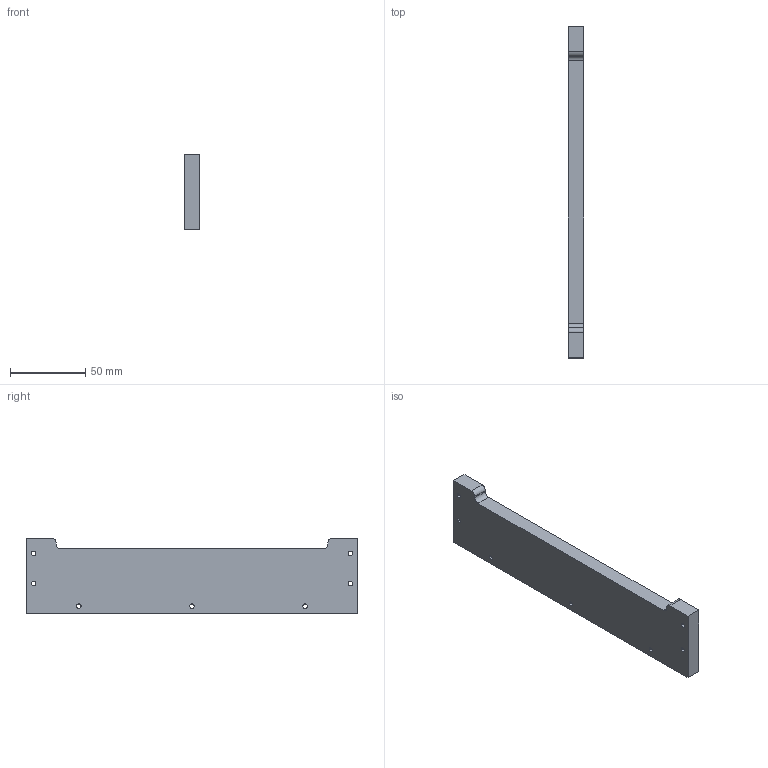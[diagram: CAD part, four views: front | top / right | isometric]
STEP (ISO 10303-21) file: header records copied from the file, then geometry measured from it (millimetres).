
FILE_DESCRIPTION(('CATIA V5 STEP Exchange'),'2;1');
FILE_NAME('E:\CNC\CNC_REV3_PLAN_FINAL\FICHIERS POUR USINAGE DES PIECES PORTIQUE\PIECES_AVEC_TROU\AxeZ_Bottom.stp','2016-09-06T20:13:02+00:00',('none'),('none'),'CATIA Version 5 Release 19 SP 2 (IN-10)','CATIA V5 STEP AP203','none');
FILE_SCHEMA(('CONFIG_CONTROL_DESIGN'));
Length unit declared in the file: millimetre
Products named in the file (1): AxeZ_Bas
Bounding box: 10 x 220 x 50 mm (x, y, z)
Volume: 96905.2 mm3; surface area: 25529.3 mm2
Topology: 1 solids, 1 shells, 28 faces, 78 edges, 52 vertices
Faces by surface type: cylinder 18, plane 10
Entity records: 912 total; most frequent: ORIENTED_EDGE 156, CARTESIAN_POINT 151, DIRECTION 118, EDGE_CURVE 78, AXIS2_PLACEMENT_3D 57, VERTEX_POINT 52, VECTOR 42, EDGE_LOOP 42
